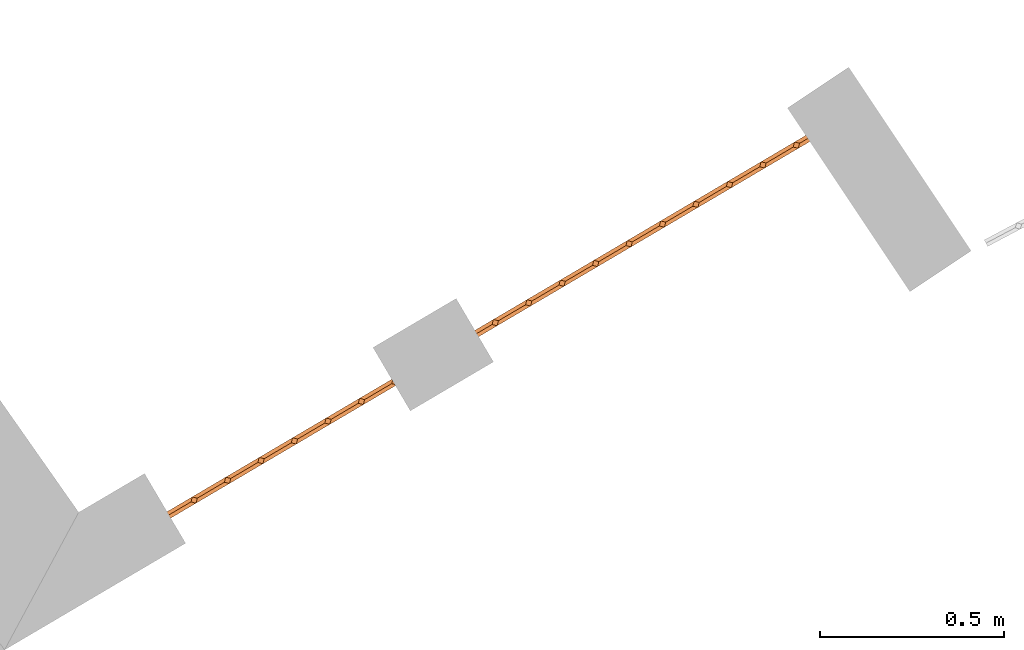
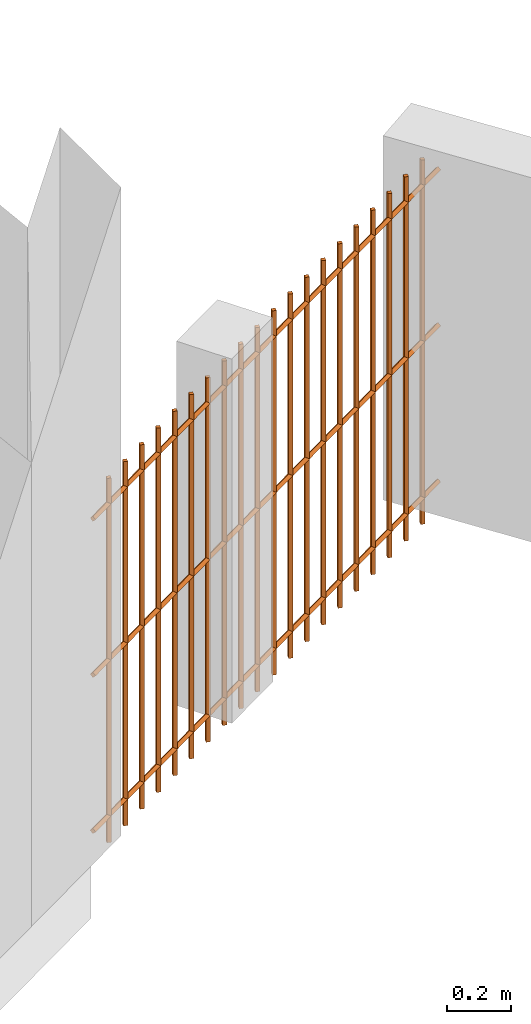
# One storey, part 187 of 195: 1 proxy.
"""IFC2X3 building model written with IfcOpenShell, lengths in metres."""

from ifc_helpers import new_model, entity, si_unit, converted_unit, derived_unit, money_unit, direction, frame, origin_with_axes, place, context, subcontext, project, spatial, faceted_brep, type_object, element, save


model = new_model("IFC2X3")

# Units and contexts
model_context = context("Model", 3, precision=1e-05, world=origin_with_axes(), true_north=direction((0.0, 1.0)))
body_context = subcontext(model_context, "Body", "Model", "MODEL_VIEW")
ifc_project = project(units=[si_unit("LENGTHUNIT", "METRE"), si_unit("AREAUNIT", "SQUARE_METRE"), si_unit("VOLUMEUNIT", "CUBIC_METRE"), converted_unit("PLANEANGLEUNIT", "DEGREE", entity("IfcPlaneAngleMeasure", 0.0174532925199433), si_unit("PLANEANGLEUNIT", "RADIAN"), dimensions=[0, 0, 0, 0, 0, 0, 0]), money_unit("CHF"), converted_unit("TIMEUNIT", "Year", entity("IfcTimeMeasure", 31557600.0), si_unit("TIMEUNIT", "SECOND"), dimensions=[0, 0, 1, 0, 0, 0, 0]), si_unit("MASSUNIT", "GRAM", prefix="KILO"), si_unit("THERMODYNAMICTEMPERATUREUNIT", "DEGREE_CELSIUS"), si_unit("LUMINOUSINTENSITYUNIT", "LUMEN"), si_unit("ENERGYUNIT", "JOULE", prefix="MEGA"), derived_unit("THERMALCONDUCTANCEUNIT", [(si_unit("POWERUNIT", "WATT"), 1), (si_unit("LENGTHUNIT", "METRE"), -1), (si_unit("THERMODYNAMICTEMPERATUREUNIT", "KELVIN"), -1)]), derived_unit("SPECIFICHEATCAPACITYUNIT", [(si_unit("ENERGYUNIT", "JOULE"), 1), (si_unit("MASSUNIT", "GRAM", prefix="KILO"), -1), (si_unit("THERMODYNAMICTEMPERATUREUNIT", "KELVIN"), -1)]), derived_unit("MASSDENSITYUNIT", [(si_unit("MASSUNIT", "GRAM", prefix="KILO"), 1), (si_unit("VOLUMEUNIT", "CUBIC_METRE"), -1)])], contexts=[model_context])

# Site, building, storey
site_placement = place(None, origin_with_axes())
site = spatial("IfcSite", under=ifc_project, at=site_placement, Name="Site", CompositionType="ELEMENT")
building_placement = place(site_placement, origin_with_axes())
building = spatial("IfcBuilding", under=site, at=building_placement, Name="Bâtiment", CompositionType="ELEMENT")
storey_placement = place(building_placement, origin_with_axes())
storey = spatial("IfcBuildingStorey", under=building, at=storey_placement, Name="rdc", CompositionType="ELEMENT", Elevation=0.0)

# Proxy
building_element_proxy_type = type_object("IfcBuildingElementProxyType", Name="Grille anti-effraction", PredefinedType="NOTDEFINED")
proxy_placement = place(storey_placement, frame((9564.13510281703, -1069.461758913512, 57.6), z_axis=(0.0, 0.0, 1.0), x_axis=(-0.8615849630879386, -0.5076133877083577, 0.0)))
element("IfcBuildingElementProxy", 1, at=proxy_placement, inside=storey, type_object=building_element_proxy_type, Name="Obj.-010", context=body_context, shape_type="Brep", body=[
    faceted_brep([(1.103383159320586, -0.01, 0.1), (1.103383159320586, 0.0, 0.09000000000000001), (1.103383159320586, 0.01, 0.1), (1.103383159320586, 0.0, 0.11), (-1.103383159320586, -0.01, 0.1000000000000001), (-1.103383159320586, 0.0, 0.09000000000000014), (-1.103383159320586, 0.01, 0.1000000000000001), (-1.103383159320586, 0.0, 0.1100000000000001)], [[[0, 1, 2, 3]], [[0, 4, 5, 1]], [[1, 5, 6, 2]], [[2, 6, 7, 3]], [[3, 7, 4, 0]], [[4, 7, 6, 5]]]),
    faceted_brep([(1.103383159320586, -0.01, 0.7), (1.103383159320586, 0.0, 0.69), (1.103383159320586, 0.01, 0.7), (1.103383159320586, 0.0, 0.71), (-1.103383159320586, -0.01, 0.7000000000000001), (-1.103383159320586, 0.0, 0.6900000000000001), (-1.103383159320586, 0.01, 0.7000000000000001), (-1.103383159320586, 0.0, 0.7100000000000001)], [[[0, 1, 2, 3]], [[0, 4, 5, 1]], [[1, 5, 6, 2]], [[2, 6, 7, 3]], [[3, 7, 4, 0]], [[4, 7, 6, 5]]]),
    faceted_brep([(1.103383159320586, -0.01, 1.3), (1.103383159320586, 0.0, 1.29), (1.103383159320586, 0.01, 1.3), (1.103383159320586, 0.0, 1.31), (-1.103383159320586, -0.01, 1.3), (-1.103383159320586, 0.0, 1.29), (-1.103383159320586, 0.01, 1.3), (-1.103383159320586, 0.0, 1.31)], [[[0, 1, 2, 3]], [[0, 4, 5, 1]], [[1, 5, 6, 2]], [[2, 6, 7, 3]], [[3, 7, 4, 0]], [[4, 7, 6, 5]]]),
    faceted_brep([(1.003383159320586, -0.01, 0.0), (0.9933831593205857, 0.0, 0.0), (1.003383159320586, 0.01, 0.0), (1.013383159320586, 0.0, 0.0), (1.003383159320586, -0.01, 1.4), (0.9933831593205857, 0.0, 1.4), (1.003383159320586, 0.01, 1.4), (1.013383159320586, 0.0, 1.4)], [[[0, 1, 2, 3]], [[0, 4, 5, 1]], [[1, 5, 6, 2]], [[2, 6, 7, 3]], [[3, 7, 4, 0]], [[4, 7, 6, 5]]]),
    faceted_brep([(0.897763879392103, -0.01, 0.0), (0.887763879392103, 0.0, 0.0), (0.897763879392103, 0.01, 0.0), (0.907763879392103, 0.0, 0.0), (0.897763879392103, -0.01, 1.4), (0.887763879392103, 0.0, 1.4), (0.897763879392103, 0.01, 1.4), (0.907763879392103, 0.0, 1.4)], [[[0, 1, 2, 3]], [[0, 4, 5, 1]], [[1, 5, 6, 2]], [[2, 6, 7, 3]], [[3, 7, 4, 0]], [[4, 7, 6, 5]]]),
    faceted_brep([(0.7921445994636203, -0.01, 0.0), (0.7821445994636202, 0.0, 0.0), (0.7921445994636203, 0.01, 0.0), (0.8021445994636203, 0.0, 0.0), (0.7921445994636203, -0.01, 1.4), (0.7821445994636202, 0.0, 1.4), (0.7921445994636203, 0.01, 1.4), (0.8021445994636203, 0.0, 1.4)], [[[0, 1, 2, 3]], [[0, 4, 5, 1]], [[1, 5, 6, 2]], [[2, 6, 7, 3]], [[3, 7, 4, 0]], [[4, 7, 6, 5]]]),
    faceted_brep([(0.6865253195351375, -0.01, 0.0), (0.6765253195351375, 0.0, 0.0), (0.6865253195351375, 0.01, 0.0), (0.6965253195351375, 0.0, 0.0), (0.6865253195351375, -0.01, 1.4), (0.6765253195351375, 0.0, 1.4), (0.6865253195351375, 0.01, 1.4), (0.6965253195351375, 0.0, 1.4)], [[[0, 1, 2, 3]], [[0, 4, 5, 1]], [[1, 5, 6, 2]], [[2, 6, 7, 3]], [[3, 7, 4, 0]], [[4, 7, 6, 5]]]),
    faceted_brep([(0.5809060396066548, -0.01, 0.0), (0.5709060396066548, 0.0, 0.0), (0.5809060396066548, 0.01, 0.0), (0.5909060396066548, 0.0, 0.0), (0.5809060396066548, -0.01, 1.4), (0.5709060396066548, 0.0, 1.4), (0.5809060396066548, 0.01, 1.4), (0.5909060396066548, 0.0, 1.4)], [[[0, 1, 2, 3]], [[0, 4, 5, 1]], [[1, 5, 6, 2]], [[2, 6, 7, 3]], [[3, 7, 4, 0]], [[4, 7, 6, 5]]]),
    faceted_brep([(0.4752867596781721, -0.01, 0.0), (0.4652867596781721, 0.0, 0.0), (0.4752867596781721, 0.01, 0.0), (0.4852867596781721, 0.0, 0.0), (0.4752867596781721, -0.01, 1.4), (0.4652867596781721, 0.0, 1.4), (0.4752867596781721, 0.01, 1.4), (0.4852867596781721, 0.0, 1.4)], [[[0, 1, 2, 3]], [[0, 4, 5, 1]], [[1, 5, 6, 2]], [[2, 6, 7, 3]], [[3, 7, 4, 0]], [[4, 7, 6, 5]]]),
    faceted_brep([(0.3696674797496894, -0.01, 0.0), (0.3596674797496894, 0.0, 0.0), (0.3696674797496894, 0.01, 0.0), (0.3796674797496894, 0.0, 0.0), (0.3696674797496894, -0.01, 1.4), (0.3596674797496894, 0.0, 1.4), (0.3696674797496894, 0.01, 1.4), (0.3796674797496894, 0.0, 1.4)], [[[0, 1, 2, 3]], [[0, 4, 5, 1]], [[1, 5, 6, 2]], [[2, 6, 7, 3]], [[3, 7, 4, 0]], [[4, 7, 6, 5]]]),
    faceted_brep([(0.2640481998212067, -0.01, 0.0), (0.2540481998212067, 0.0, 0.0), (0.2640481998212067, 0.01, 0.0), (0.2740481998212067, 0.0, 0.0), (0.2640481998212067, -0.01, 1.4), (0.2540481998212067, 0.0, 1.4), (0.2640481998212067, 0.01, 1.4), (0.2740481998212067, 0.0, 1.4)], [[[0, 1, 2, 3]], [[0, 4, 5, 1]], [[1, 5, 6, 2]], [[2, 6, 7, 3]], [[3, 7, 4, 0]], [[4, 7, 6, 5]]]),
    faceted_brep([(0.158428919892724, -0.01, 0.0), (0.148428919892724, 0.0, 0.0), (0.158428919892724, 0.01, 0.0), (0.168428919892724, 0.0, 0.0), (0.158428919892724, -0.01, 1.4), (0.148428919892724, 0.0, 1.4), (0.158428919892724, 0.01, 1.4), (0.168428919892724, 0.0, 1.4)], [[[0, 1, 2, 3]], [[0, 4, 5, 1]], [[1, 5, 6, 2]], [[2, 6, 7, 3]], [[3, 7, 4, 0]], [[4, 7, 6, 5]]]),
    faceted_brep([(0.0528096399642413, -0.01, 0.0), (0.0428096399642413, 0.0, 0.0), (0.0528096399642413, 0.01, 0.0), (0.0628096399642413, 0.0, 0.0), (0.0528096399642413, -0.01, 1.4), (0.0428096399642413, 0.0, 1.4), (0.0528096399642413, 0.01, 1.4), (0.0628096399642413, 0.0, 1.4)], [[[0, 1, 2, 3]], [[0, 4, 5, 1]], [[1, 5, 6, 2]], [[2, 6, 7, 3]], [[3, 7, 4, 0]], [[4, 7, 6, 5]]]),
    faceted_brep([(-0.0528096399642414, -0.01, 0.0), (-0.0628096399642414, 0.0, 0.0), (-0.0528096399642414, 0.01, 0.0), (-0.0428096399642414, 0.0, 0.0), (-0.0528096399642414, -0.01, 1.4), (-0.0628096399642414, 0.0, 1.4), (-0.0528096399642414, 0.01, 1.4), (-0.0428096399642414, 0.0, 1.4)], [[[0, 1, 2, 3]], [[0, 4, 5, 1]], [[1, 5, 6, 2]], [[2, 6, 7, 3]], [[3, 7, 4, 0]], [[4, 7, 6, 5]]]),
    faceted_brep([(-0.1584289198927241, -0.01, 0.0), (-0.1684289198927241, 0.0, 0.0), (-0.1584289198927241, 0.01, 0.0), (-0.1484289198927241, 0.0, 0.0), (-0.1584289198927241, -0.01, 1.4), (-0.1684289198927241, 0.0, 1.4), (-0.1584289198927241, 0.01, 1.4), (-0.1484289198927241, 0.0, 1.4)], [[[0, 1, 2, 3]], [[0, 4, 5, 1]], [[1, 5, 6, 2]], [[2, 6, 7, 3]], [[3, 7, 4, 0]], [[4, 7, 6, 5]]]),
    faceted_brep([(-0.2640481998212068, -0.01, 0.0), (-0.2740481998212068, 0.0, 0.0), (-0.2640481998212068, 0.01, 0.0), (-0.2540481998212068, 0.0, 0.0), (-0.2640481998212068, -0.01, 1.4), (-0.2740481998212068, 0.0, 1.4), (-0.2640481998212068, 0.01, 1.4), (-0.2540481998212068, 0.0, 1.4)], [[[0, 1, 2, 3]], [[0, 4, 5, 1]], [[1, 5, 6, 2]], [[2, 6, 7, 3]], [[3, 7, 4, 0]], [[4, 7, 6, 5]]]),
    faceted_brep([(-0.3696674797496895, -0.01, 0.0), (-0.3796674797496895, 0.0, 0.0), (-0.3696674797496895, 0.01, 0.0), (-0.3596674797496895, 0.0, 0.0), (-0.3696674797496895, -0.01, 1.4), (-0.3796674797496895, 0.0, 1.4), (-0.3696674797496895, 0.01, 1.4), (-0.3596674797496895, 0.0, 1.4)], [[[0, 1, 2, 3]], [[0, 4, 5, 1]], [[1, 5, 6, 2]], [[2, 6, 7, 3]], [[3, 7, 4, 0]], [[4, 7, 6, 5]]]),
    faceted_brep([(-0.4752867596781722, -0.01, 0.0), (-0.4852867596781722, 0.0, 0.0), (-0.4752867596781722, 0.01, 0.0), (-0.4652867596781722, 0.0, 0.0), (-0.4752867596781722, -0.01, 1.4), (-0.4852867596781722, 0.0, 1.4), (-0.4752867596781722, 0.01, 1.4), (-0.4652867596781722, 0.0, 1.4)], [[[0, 1, 2, 3]], [[0, 4, 5, 1]], [[1, 5, 6, 2]], [[2, 6, 7, 3]], [[3, 7, 4, 0]], [[4, 7, 6, 5]]]),
    faceted_brep([(-0.5809060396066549, -0.01, 0.0), (-0.5909060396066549, 0.0, 0.0), (-0.5809060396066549, 0.01, 0.0), (-0.5709060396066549, 0.0, 0.0), (-0.5809060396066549, -0.01, 1.4), (-0.5909060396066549, 0.0, 1.4), (-0.5809060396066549, 0.01, 1.4), (-0.5709060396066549, 0.0, 1.4)], [[[0, 1, 2, 3]], [[0, 4, 5, 1]], [[1, 5, 6, 2]], [[2, 6, 7, 3]], [[3, 7, 4, 0]], [[4, 7, 6, 5]]]),
    faceted_brep([(-0.6865253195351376, -0.01, 0.0), (-0.6965253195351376, 0.0, 0.0), (-0.6865253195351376, 0.01, 0.0), (-0.6765253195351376, 0.0, 0.0), (-0.6865253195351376, -0.01, 1.4), (-0.6965253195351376, 0.0, 1.4), (-0.6865253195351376, 0.01, 1.4), (-0.6765253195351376, 0.0, 1.4)], [[[0, 1, 2, 3]], [[0, 4, 5, 1]], [[1, 5, 6, 2]], [[2, 6, 7, 3]], [[3, 7, 4, 0]], [[4, 7, 6, 5]]]),
    faceted_brep([(-0.7921445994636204, -0.01, 0.0), (-0.8021445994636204, 0.0, 0.0), (-0.7921445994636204, 0.01, 0.0), (-0.7821445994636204, 0.0, 0.0), (-0.7921445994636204, -0.01, 1.4), (-0.8021445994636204, 0.0, 1.4), (-0.7921445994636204, 0.01, 1.4), (-0.7821445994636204, 0.0, 1.4)], [[[0, 1, 2, 3]], [[0, 4, 5, 1]], [[1, 5, 6, 2]], [[2, 6, 7, 3]], [[3, 7, 4, 0]], [[4, 7, 6, 5]]]),
    faceted_brep([(-0.8977638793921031, -0.01, 0.0), (-0.9077638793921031, 0.0, 0.0), (-0.8977638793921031, 0.01, 0.0), (-0.8877638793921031, 0.0, 0.0), (-0.8977638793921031, -0.01, 1.4), (-0.9077638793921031, 0.0, 1.4), (-0.8977638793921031, 0.01, 1.4), (-0.8877638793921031, 0.0, 1.4)], [[[0, 1, 2, 3]], [[0, 4, 5, 1]], [[1, 5, 6, 2]], [[2, 6, 7, 3]], [[3, 7, 4, 0]], [[4, 7, 6, 5]]]),
    faceted_brep([(-1.003383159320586, -0.01, 0.0), (-1.013383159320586, 0.0, 0.0), (-1.003383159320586, 0.01, 0.0), (-0.9933831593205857, 0.0, 0.0), (-1.003383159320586, -0.01, 1.4), (-1.013383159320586, 0.0, 1.4), (-1.003383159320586, 0.01, 1.4), (-0.9933831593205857, 0.0, 1.4)], [[[0, 1, 2, 3]], [[0, 4, 5, 1]], [[1, 5, 6, 2]], [[2, 6, 7, 3]], [[3, 7, 4, 0]], [[4, 7, 6, 5]]]),
])

save(model, "model.ifc")
